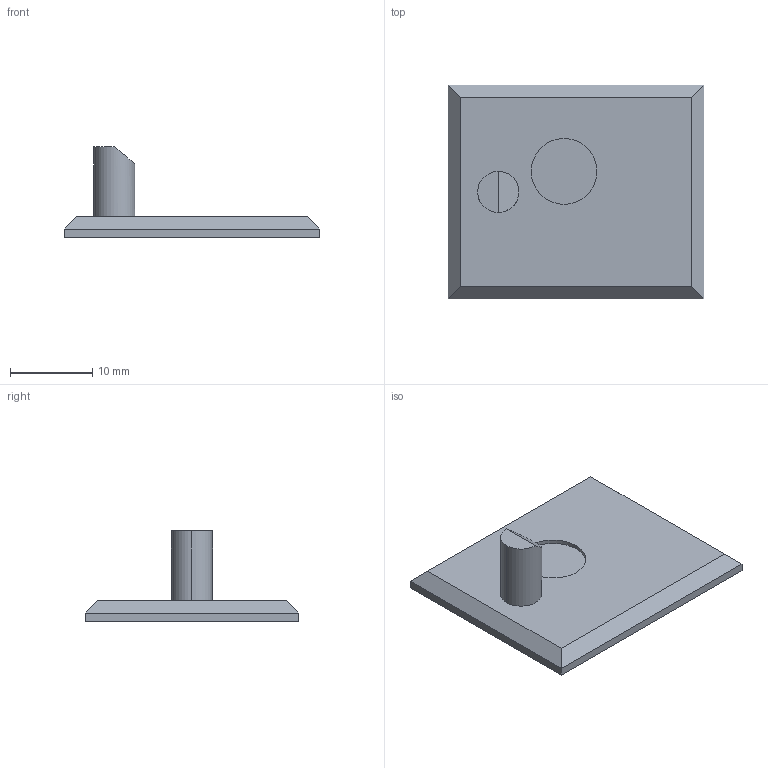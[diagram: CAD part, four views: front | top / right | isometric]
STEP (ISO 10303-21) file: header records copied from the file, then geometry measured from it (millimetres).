
FILE_DESCRIPTION (( 'STEP AP214' ), '1' );
FILE_NAME ('Schliessaufsatz_Huwil.step', '2010-09-29T12:03:58', ( 'grass' ), ( '' ), 'SwSTEP 2.0', 'SolidWorks 2010', '' );
FILE_SCHEMA (( 'AUTOMOTIVE_DESIGN' ));
Length unit declared in the file: millimetre
Products named in the file (1): Schliessaufsatz_Huwil
Bounding box: 31.1 x 26 x 11 mm (x, y, z)
Volume: 2030.5 mm3; surface area: 1937.2 mm2
Topology: 1 solids, 1 shells, 17 faces, 35 edges, 22 vertices
Faces by surface type: plane 13, cylinder 4
Entity records: 479 total; most frequent: CARTESIAN_POINT 81, DIRECTION 77, ORIENTED_EDGE 70, EDGE_CURVE 35, AXIS2_PLACEMENT_3D 26, LINE 25, VECTOR 25, VERTEX_POINT 22
